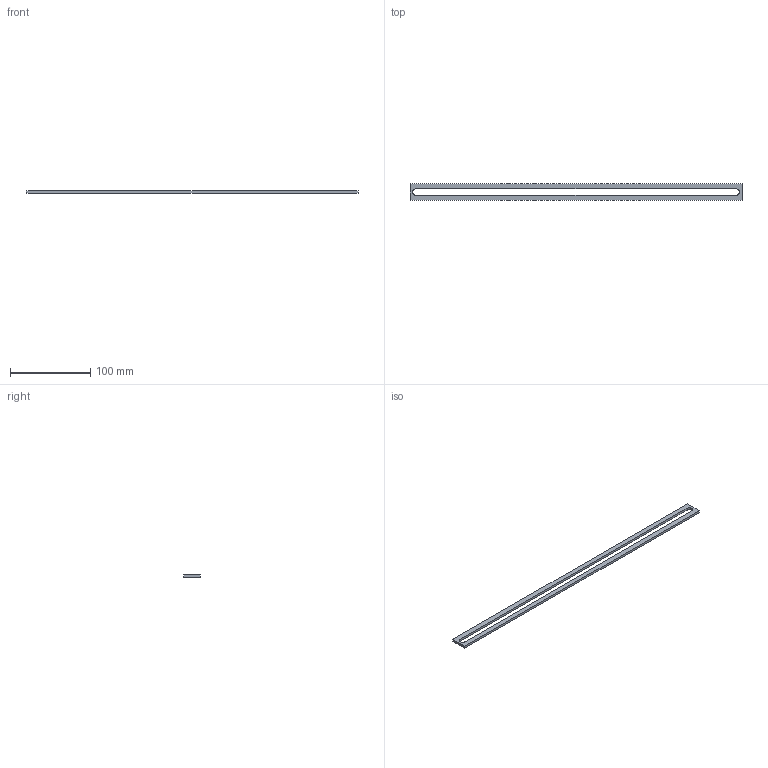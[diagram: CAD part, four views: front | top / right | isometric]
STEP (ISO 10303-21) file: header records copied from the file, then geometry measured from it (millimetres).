
FILE_DESCRIPTION (( 'STEP AP203' ), '1' );
FILE_NAME ('Support Crémaillère.STEP', '2025-09-18T11:45:22', ( '' ), ( '' ), 'SwSTEP 2.0', 'SolidWorks 2019', '' );
FILE_SCHEMA (( 'CONFIG_CONTROL_DESIGN' ));
Length unit declared in the file: millimetre
Products named in the file (1): Support Cr幦aill鋨e
Bounding box: 414.69 x 21 x 3 mm (x, y, z)
Volume: 16374.7 mm3; surface area: 16006 mm2
Topology: 1 solids, 1 shells, 11 faces, 27 edges, 18 vertices
Faces by surface type: plane 8, cylinder 3
Entity records: 408 total; most frequent: DIRECTION 57, CARTESIAN_POINT 57, ORIENTED_EDGE 54, EDGE_CURVE 27, VECTOR 21, LINE 21, AXIS2_PLACEMENT_3D 18, VERTEX_POINT 18
